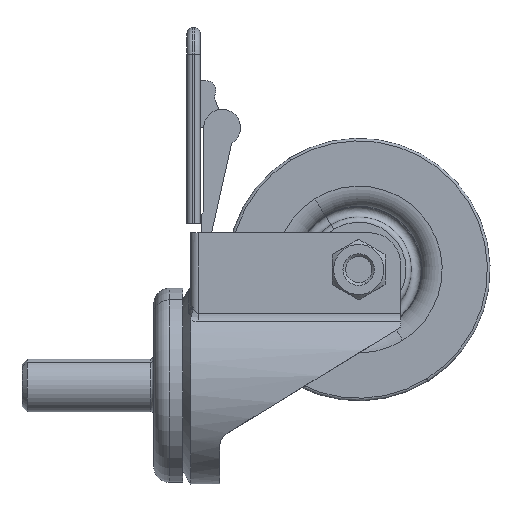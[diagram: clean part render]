
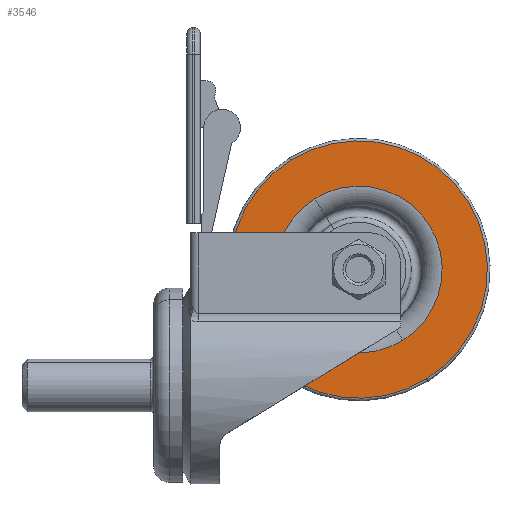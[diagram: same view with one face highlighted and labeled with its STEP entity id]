
A CAD part, left-side view. The second image highlights one B-rep face of the part: STEP entity #3546.
In plain terms, the highlighted planar face has unit normal (-1, 0, 0) as drawn and (0, 0, 1) by its records, which use the part's own axes.
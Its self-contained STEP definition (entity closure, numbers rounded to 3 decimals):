
#185 = FACE_BOUND ( 'NONE', #2846, .T. ) ;
#321 = CIRCLE ( 'NONE', #696, 24.5 ) ;
#696 = AXIS2_PLACEMENT_3D ( 'NONE', #5747, #2256, #6306 ) ;
#812 = CARTESIAN_POINT ( 'NONE',  ( 0., 0., 8. ) ) ;
#1018 = VERTEX_POINT ( 'NONE', #2891 ) ;
#1402 = DIRECTION ( 'NONE',  ( 1., 0., 0. ) ) ;
#1544 = FACE_OUTER_BOUND ( 'NONE', #4328, .T. ) ;
#1797 = AXIS2_PLACEMENT_3D ( 'NONE', #812, #4871, #1402 ) ;
#1818 = CARTESIAN_POINT ( 'NONE',  ( 24.5, 0., 8. ) ) ;
#1911 = EDGE_CURVE ( 'NONE', #2159, #4425, #3867, .T. ) ;
#2159 = VERTEX_POINT ( 'NONE', #5334 ) ;
#2215 = VERTEX_POINT ( 'NONE', #1818 ) ;
#2256 = DIRECTION ( 'NONE',  ( 0., 0., 1. ) ) ;
#2342 = CARTESIAN_POINT ( 'NONE',  ( 0., 0., 8. ) ) ;
#2785 = AXIS2_PLACEMENT_3D ( 'NONE', #3439, #7454, #4040 ) ;
#2846 = EDGE_LOOP ( 'NONE', ( #5984, #4247 ) ) ;
#2891 = CARTESIAN_POINT ( 'NONE',  ( -24.5, 0., 8. ) ) ;
#3122 = ORIENTED_EDGE ( 'NONE', *, *, #6308, .T. ) ;
#3254 = DIRECTION ( 'NONE',  ( 0., 0., -1. ) ) ;
#3372 = AXIS2_PLACEMENT_3D ( 'NONE', #6696, #3254, #7282 ) ;
#3439 = CARTESIAN_POINT ( 'NONE',  ( 0., 0., 8. ) ) ;
#3546 = ADVANCED_FACE ( 'NONE', ( #1544, #185 ), #7129, .T. ) ;
#3689 = CIRCLE ( 'NONE', #2785, 24.5 ) ;
#3867 = CIRCLE ( 'NONE', #6735, 15.883 ) ;
#4040 = DIRECTION ( 'NONE',  ( 1., 0., 0. ) ) ;
#4247 = ORIENTED_EDGE ( 'NONE', *, *, #1911, .T. ) ;
#4328 = EDGE_LOOP ( 'NONE', ( #3122, #7258 ) ) ;
#4425 = VERTEX_POINT ( 'NONE', #4557 ) ;
#4557 = CARTESIAN_POINT ( 'NONE',  ( 15.883, 0., 8. ) ) ;
#4653 = DIRECTION ( 'NONE',  ( 0., 0., -1. ) ) ;
#4871 = DIRECTION ( 'NONE',  ( 0., 0., 1. ) ) ;
#5334 = CARTESIAN_POINT ( 'NONE',  ( -15.883, 0., 8. ) ) ;
#5747 = CARTESIAN_POINT ( 'NONE',  ( 0., 0., 8. ) ) ;
#5874 = EDGE_CURVE ( 'NONE', #4425, #2159, #6287, .T. ) ;
#5984 = ORIENTED_EDGE ( 'NONE', *, *, #5874, .T. ) ;
#6087 = EDGE_CURVE ( 'NONE', #1018, #2215, #3689, .T. ) ;
#6287 = CIRCLE ( 'NONE', #3372, 15.883 ) ;
#6306 = DIRECTION ( 'NONE',  ( 1., 0., 0. ) ) ;
#6308 = EDGE_CURVE ( 'NONE', #2215, #1018, #321, .T. ) ;
#6338 = DIRECTION ( 'NONE',  ( 1., 0., 0. ) ) ;
#6696 = CARTESIAN_POINT ( 'NONE',  ( 0., 0., 8. ) ) ;
#6735 = AXIS2_PLACEMENT_3D ( 'NONE', #2342, #4653, #6338 ) ;
#7129 = PLANE ( 'NONE',  #1797 ) ;
#7258 = ORIENTED_EDGE ( 'NONE', *, *, #6087, .T. ) ;
#7282 = DIRECTION ( 'NONE',  ( 1., 0., 0. ) ) ;
#7454 = DIRECTION ( 'NONE',  ( 0., 0., 1. ) ) ;
